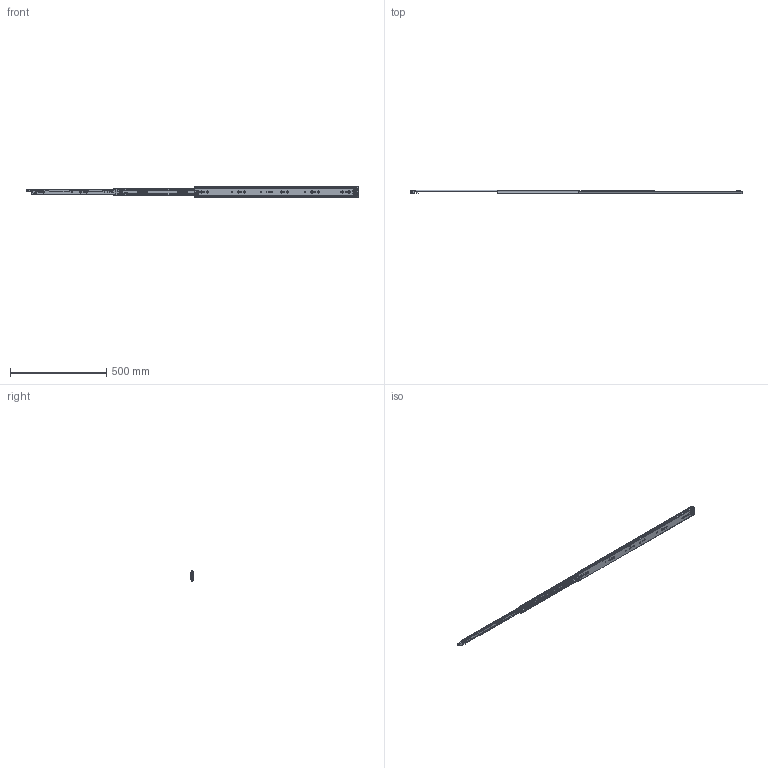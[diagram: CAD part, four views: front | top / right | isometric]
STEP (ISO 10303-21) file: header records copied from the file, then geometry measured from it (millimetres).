
FILE_DESCRIPTION((''),'2;1');
FILE_NAME('1053-3S-34YOU_ASM','2023-04-12T',('jishu015'),(''),'PRO/ENGINEER BY PARAMETRIC TECHNOLOGY CORPORATION, 2010280','PRO/ENGINEER BY PARAMETRIC TECHNOLOGY CORPORATION, 2010280','');
FILE_SCHEMA(('CONFIG_CONTROL_DESIGN'));
Products named in the file (20): 1053-02-18WAIKE____________; 1053WEIJIAO____________; 1053-3S-24WAIKE_____________ASM; 1053ZHUTIAO-175____________; 53-5-6GANZHU____________; 1053ZHUTIAO-175MM_____________ASM; 1053-02-18ZHONGGUI____________; ZHONGGUIPEIJIAN__________; ZHONGGUISUOKOU__________; 1053-02-18ZHONGGUI_____________ASM; 1053XIAOZHUJIA-14GE____________; 1053XIAOZHUJIA-14GE_____________ASM; 1053-02-18NEIGUI____________; DAOPIAN________; PIAN________; 1053-3SBANJI123_______; JIAO-11_______; 50XINSUOKOU11______; 1053-02-18NEIGUI_____________ASM; 1053-3S-34YOU_ASM
Assembly tree (94 placements, depth 3):
  1053-3S-34YOU_ASM
    1053-3S-24WAIKE_____________ASM
      1053-02-18WAIKE____________
      1053WEIJIAO____________
    1053ZHUTIAO-175MM_____________ASM  x2
      1053ZHUTIAO-175____________
      53-5-6GANZHU____________
    1053-02-18ZHONGGUI_____________ASM
      1053-02-18ZHONGGUI____________
      ZHONGGUIPEIJIAN__________
      ZHONGGUISUOKOU__________
    1053XIAOZHUJIA-14GE_____________ASM
      1053XIAOZHUJIA-14GE____________
      53-5-6GANZHU____________  x60
    1053-02-18NEIGUI_____________ASM
      1053-02-18NEIGUI____________
      DAOPIAN________
      PIAN________
      1053-3SBANJI123_______
      JIAO-11_______
      50XINSUOKOU11______
Bounding box: 1726.92 x 18.7 x 53 mm (x, y, z)
Volume: 324008.6 mm3; surface area: 375624.9 mm2
Topology: 105 solids, 105 shells, 2652 faces, 7684 edges, 4797 vertices
Faces by surface type: cylinder 1156, plane 1066, sphere 188, bspline 117, cone 86, extrusion 23, torus 16
Entity records: 85755 total; most frequent: CARTESIAN_POINT 21378, ORIENTED_EDGE 13682, DIRECTION 13216, EDGE_CURVE 6841, AXIS2_PLACEMENT_3D 4572, VERTEX_POINT 4422, VECTOR 4072, LINE 4049
